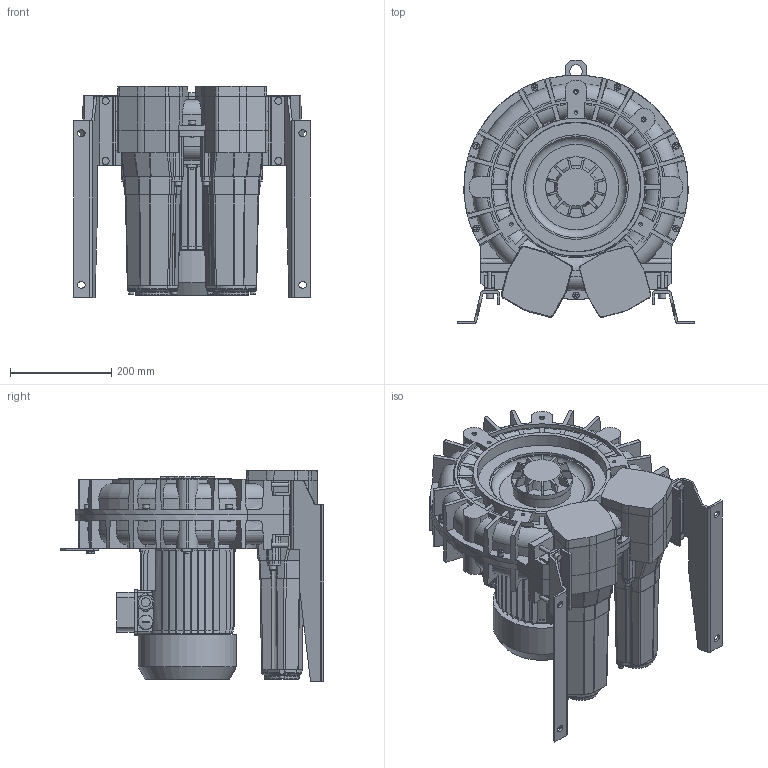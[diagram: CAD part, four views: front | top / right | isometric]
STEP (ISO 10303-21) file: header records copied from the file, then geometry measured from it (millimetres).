
FILE_DESCRIPTION (( 'STEP AP203' ), '1' );
FILE_NAME ('STP-L_e_07_MD_MOR_IE3WR_100_3.0kW-3_24-00.step', '2025-01-08T15:17:06', ( '' ), ( '' ), 'SwSTEP 2.0', 'SolidWorks 2024', '' );
FILE_SCHEMA (( 'CONFIG_CONTROL_DESIGN' ));
Products named in the file (1): STP-L_e_07_MD_MOR_IE3WR_100_3.0kW-3_24-00
Bounding box: 468 x 521.5 x 417.5 mm (x, y, z)
Volume: 28228632.6 mm3; surface area: 2096027.7 mm2
Topology: 73 solids, 73 shells, 2897 faces, 7493 edges, 4763 vertices
Faces by surface type: plane 1439, cylinder 667, torus 283, cone 258, bspline 249, sphere 1
Full cylindrical faces by diameter (mm): 4 x8, 5 x8, 6 x8, 6.4 x8, 6.8 x12, 7 x4, 7.5 x4, 8 x20, 8.4 x16, 8.5 x5, 10 x16, 13 x27, 14 x4, 16 x5, 18 x2, 20 x1, 21.4 x1, 24 x4, 25 x4, 28 x1, 57 x2, 115 x2, 120 x1, 156 x2, 165 x1, 194 x1, 200 x1, 207 x3
Entity records: 94920 total; most frequent: CARTESIAN_POINT 28962, ORIENTED_EDGE 13860, DIRECTION 13075, EDGE_CURVE 6930, AXIS2_PLACEMENT_3D 4881, VERTEX_POINT 4622, EDGE_LOOP 3462, LINE 3313
